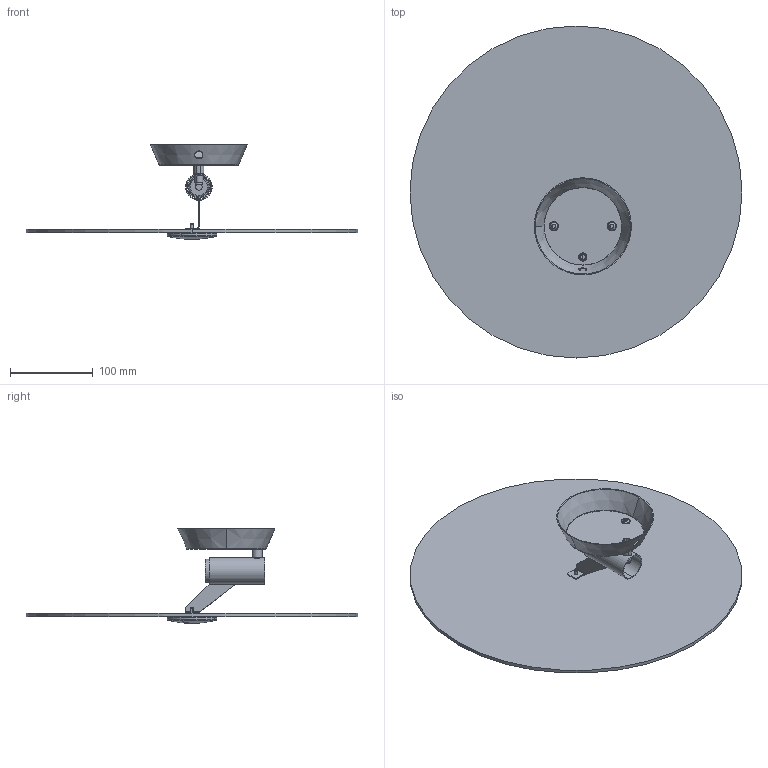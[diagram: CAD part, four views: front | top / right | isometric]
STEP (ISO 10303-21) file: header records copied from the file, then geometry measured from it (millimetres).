
FILE_DESCRIPTION (( 'STEP AP214' ), '1' );
FILE_NAME ('043_3_W_PL_3D.STEP', '2021-05-20T13:01:12', ( '' ), ( '' ), 'SwSTEP 2.0', 'SolidWorks 2021', '' );
FILE_SCHEMA (( 'AUTOMOTIVE_DESIGN' ));
Length unit declared in the file: millimetre
Products named in the file (1): 043_3_W_PL_3D
Bounding box: 400 x 400 x 114.2 mm (x, y, z)
Volume: 563287.4 mm3; surface area: 325210.2 mm2
Topology: 11 solids, 11 shells, 229 faces, 522 edges, 324 vertices
Faces by surface type: plane 122, cylinder 59, cone 28, torus 18, sphere 2
Entity records: 9419 total; most frequent: CARTESIAN_POINT 1495, DIRECTION 1166, ORIENTED_EDGE 1040, EDGE_CURVE 520, AXIS2_PLACEMENT_3D 469, VERTEX_POINT 324, EDGE_LOOP 264, UNCERTAINTY_MEASURE_WITH_UNIT 242
